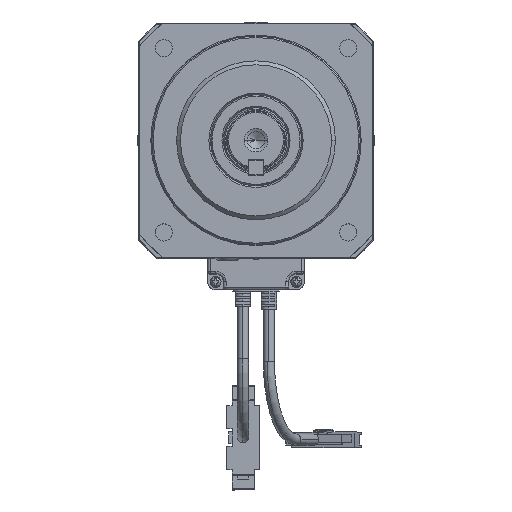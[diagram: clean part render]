
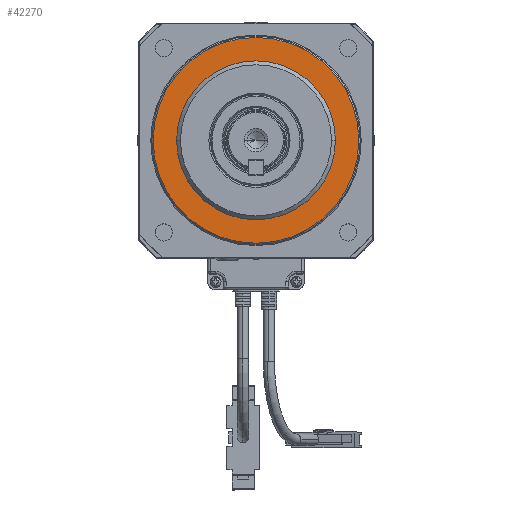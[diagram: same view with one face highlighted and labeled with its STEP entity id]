
A CAD part, top view. The second image highlights one B-rep face of the part: STEP entity #42270.
In plain terms, the highlighted planar face has unit normal (0, 0, 1).
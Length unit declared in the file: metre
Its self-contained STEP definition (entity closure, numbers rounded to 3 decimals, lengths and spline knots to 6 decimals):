
#1173 = CARTESIAN_POINT ( 'NONE',  ( 0., 0., 0.009 ) ) ;
#1174 = DIRECTION ( 'NONE',  ( 0., 0., -1. ) ) ;
#1175 = DIRECTION ( 'NONE',  ( -1., 0., 0. ) ) ;
#1181 = CARTESIAN_POINT ( 'NONE',  ( 0., 0., 0.009 ) ) ;
#1182 = DIRECTION ( 'NONE',  ( 0., 0., 1. ) ) ;
#1183 = DIRECTION ( 'NONE',  ( 1., 0., 0. ) ) ;
#2150 = AXIS2_PLACEMENT_3D ( 'NONE', #30977, #30978, #30979 ) ;
#2253 = AXIS2_PLACEMENT_3D ( 'NONE', #26773, #26774, #26775 ) ;
#2309 = AXIS2_PLACEMENT_3D ( 'NONE', #1173, #1174, #1175 ) ;
#2311 = AXIS2_PLACEMENT_3D ( 'NONE', #1181, #1182, #1183 ) ;
#5309 = EDGE_LOOP ( 'NONE', ( #40865, #40866 ) ) ;
#5314 = EDGE_LOOP ( 'NONE', ( #40863, #40864 ) ) ;
#11318 = EDGE_CURVE ( 'NONE', #21680, #21686, #38941, .T. ) ;
#14728 = EDGE_CURVE ( 'NONE', #24193, #24194, #29774, .T. ) ;
#14889 = EDGE_CURVE ( 'NONE', #24194, #24193, #30028, .T. ) ;
#14891 = EDGE_CURVE ( 'NONE', #21686, #21680, #30031, .T. ) ;
#17961 = CARTESIAN_POINT ( 'NONE',  ( 0.0395, 0., 0.009 ) ) ;
#17964 = CARTESIAN_POINT ( 'NONE',  ( -0.0395, 0., 0.009 ) ) ;
#18262 = CARTESIAN_POINT ( 'NONE',  ( -0.0305, 0., 0.009 ) ) ;
#18263 = CARTESIAN_POINT ( 'NONE',  ( 0.0305, 0., 0.009 ) ) ;
#21680 = VERTEX_POINT ( 'NONE', #17961 ) ;
#21686 = VERTEX_POINT ( 'NONE', #17964 ) ;
#24193 = VERTEX_POINT ( 'NONE', #18262 ) ;
#24194 = VERTEX_POINT ( 'NONE', #18263 ) ;
#25093 = AXIS2_PLACEMENT_3D ( 'NONE', #34938, #34948, #34949 ) ;
#26773 = CARTESIAN_POINT ( 'NONE',  ( 0., 0., 0.009 ) ) ;
#26774 = DIRECTION ( 'NONE',  ( 0., 0., -1. ) ) ;
#26775 = DIRECTION ( 'NONE',  ( -1., 0., 0. ) ) ;
#29774 = CIRCLE ( 'NONE', #2253, 0.0305 ) ;
#30028 = CIRCLE ( 'NONE', #2309, 0.0305 ) ;
#30031 = CIRCLE ( 'NONE', #2311, 0.0395 ) ;
#30977 = CARTESIAN_POINT ( 'NONE',  ( 0., 0., 0.009 ) ) ;
#30978 = DIRECTION ( 'NONE',  ( 0., 0., 1. ) ) ;
#30979 = DIRECTION ( 'NONE',  ( 1., 0., 0. ) ) ;
#34135 = FACE_BOUND ( 'NONE', #5309, .T. ) ;
#34138 = FACE_OUTER_BOUND ( 'NONE', #5314, .T. ) ;
#34938 = CARTESIAN_POINT ( 'NONE',  ( -0.04345, -0.04345, 0.009 ) ) ;
#34946 = PLANE ( 'NONE',  #25093 ) ;
#34948 = DIRECTION ( 'NONE',  ( 0., 0., 1. ) ) ;
#34949 = DIRECTION ( 'NONE',  ( 1., 0., 0. ) ) ;
#38941 = CIRCLE ( 'NONE', #2150, 0.0395 ) ;
#40863 = ORIENTED_EDGE ( 'NONE', *, *, #14891, .T. ) ;
#40864 = ORIENTED_EDGE ( 'NONE', *, *, #11318, .T. ) ;
#40865 = ORIENTED_EDGE ( 'NONE', *, *, #14728, .T. ) ;
#40866 = ORIENTED_EDGE ( 'NONE', *, *, #14889, .T. ) ;
#42270 = ADVANCED_FACE ( 'NONE', ( #34138, #34135 ), #34946, .T. ) ;
